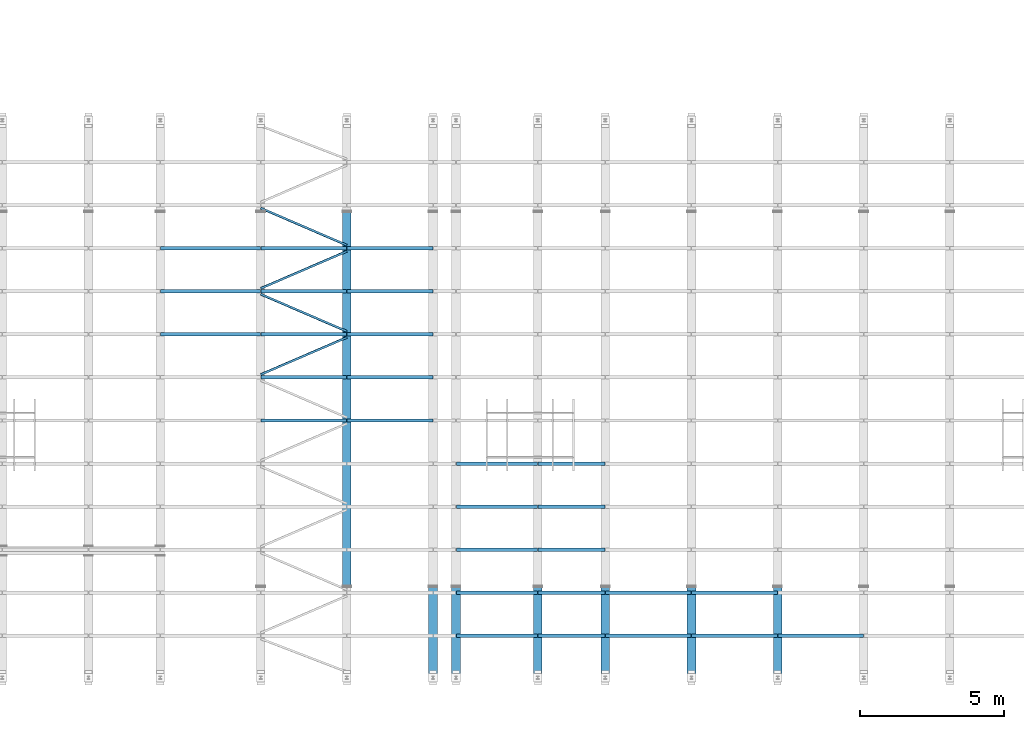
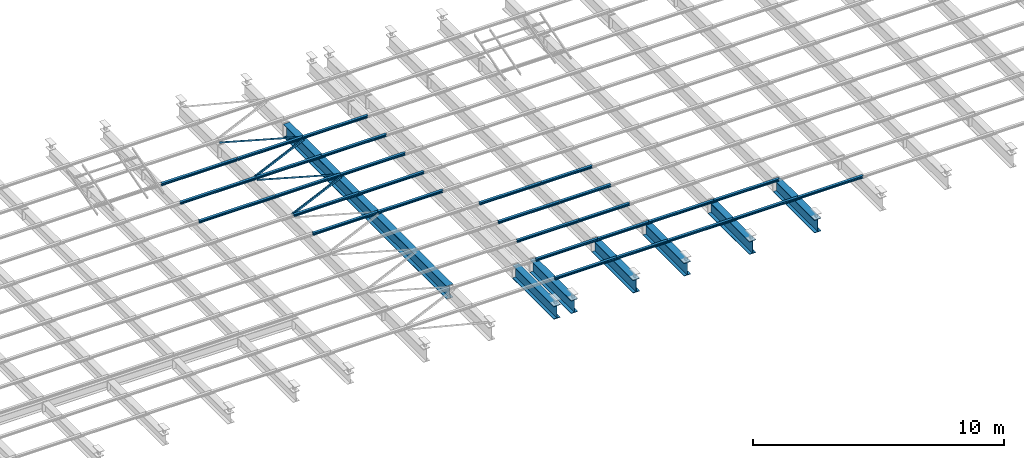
# One storey, part 65 of 139: 39 beams.
"""IFC2X3 building model written with IfcOpenShell, lengths in metres."""

from ifc_helpers import new_model, entity, si_unit, converted_unit, derived_unit, frame, origin, place, context, subcontext, project, spatial, polyline, outline, extrude, material, element, save


model = new_model("IFC2X3")

# Units and contexts
model_context = context("Model", 3, precision=1e-05, world=origin())
body_context = subcontext(model_context, "Body", "Model", "MODEL_VIEW")
ifc_project = project(units=[si_unit("LENGTHUNIT", "METRE"), si_unit("AREAUNIT", "SQUARE_METRE"), si_unit("VOLUMEUNIT", "CUBIC_METRE"), si_unit("MASSUNIT", "GRAM", prefix="KILO"), converted_unit("PLANEANGLEUNIT", "DEGREE", entity("IfcPlaneAngleMeasure", 0.0174532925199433), si_unit("PLANEANGLEUNIT", "RADIAN"), dimensions=[0, 0, 0, 0, 0, 0, 0]), derived_unit("THERMALTRANSMITTANCEUNIT", [(si_unit("POWERUNIT", "WATT"), 1), (si_unit("THERMODYNAMICTEMPERATUREUNIT", "KELVIN"), -1), (si_unit("LENGTHUNIT", "METRE"), -2)]), derived_unit("VOLUMETRICFLOWRATEUNIT", [(si_unit("LENGTHUNIT", "METRE"), 3), (converted_unit("TIMEUNIT", "hour", entity("IfcTimeMeasure", 3600.0), si_unit("TIMEUNIT", "SECOND"), dimensions=[0, 0, 1, 0, 0, 0, 0]), -1), (si_unit("LENGTHUNIT", "METRE"), -1)])], contexts=[model_context])

# Site, building, storey
site_placement = place(None, origin())
site = spatial("IfcSite", under=ifc_project, at=site_placement, Name="TWP_Speiseverteilzentrum SBW VZ II", CompositionType="ELEMENT")
building_placement = place(site_placement, origin())
building = spatial("IfcBuilding", under=site, at=building_placement, Name="Speiseverteilzentrum SBW VZ II", CompositionType="ELEMENT")
storey_placement = place(building_placement, frame((0.0, 0.0, 7.1307)))
storey = spatial("IfcBuildingStorey", under=building, at=storey_placement, Name="Wartung_FFB", CompositionType="ELEMENT", Elevation=7.1307)

# Beams
ifc_material_1 = material(Name="S235")
beam_1_placement = place(storey_placement, frame((88.0500000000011, 26.9020742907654, -0.51), z_axis=(0.0, 0.0, 1.0), x_axis=(-1.0, 0.0, 0.0)))
element("IfcBeam", 1, at=beam_1_placement, inside=storey, material=ifc_material_1, Name="Stahlträger", context=body_context, shape_type="SweptSolid", body=[
    extrude(outline(polyline([(-0.15, 0.32), (-0.15, 0.294), (-0.00675000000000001, 0.294), (-0.00675000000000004, -0.294), (-0.15, -0.294), (-0.15, -0.32), (0.15, -0.32), (0.15, -0.294), (0.00674999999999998, -0.294), (0.00675000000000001, 0.294), (0.15, 0.294), (0.15, 0.32), (-0.15, 0.32)])), frame((0.0, 0.0, 0.0), z_axis=(0.0, 1.0, 0.0), x_axis=(-1.0, 0.0, 0.0)), (0.0, 0.0, 1.0), 13.014),
])
ifc_material_2 = material(Name="S235")
beam_2_placement = place(storey_placement, frame((103.050000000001, 13.8380742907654, -0.51), z_axis=(0.0, 0.0, 1.0), x_axis=(-1.0, 0.0, 0.0)))
element("IfcBeam", 2, at=beam_2_placement, inside=storey, material=ifc_material_2, Name="Stahlträger", context=body_context, shape_type="SweptSolid", body=[
    extrude(outline(polyline([(-0.15, 0.32), (-0.15, 0.294), (-0.00675000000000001, 0.294), (-0.00675000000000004, -0.294), (-0.15, -0.294), (-0.15, -0.32), (0.15, -0.32), (0.15, -0.294), (0.00674999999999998, -0.294), (0.00675000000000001, 0.294), (0.15, 0.294), (0.15, 0.32), (-0.15, 0.32)])), frame((0.0, 0.0, 0.0), z_axis=(0.0, 1.0, 0.0), x_axis=(-1.0, 0.0, 0.0)), (0.0, 0.0, 1.0), 3.29792570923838),
])
ifc_material_3 = material(Name="S235")
beam_3_placement = place(storey_placement, frame((97.0500000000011, 13.8380742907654, -0.51), z_axis=(0.0, 0.0, 1.0), x_axis=(-1.0, 0.0, 0.0)))
element("IfcBeam", 3, at=beam_3_placement, inside=storey, material=ifc_material_3, Name="Stahlträger", context=body_context, shape_type="SweptSolid", body=[
    extrude(outline(polyline([(-0.15, 0.32), (-0.15, 0.294), (-0.00675000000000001, 0.294), (-0.00675000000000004, -0.294), (-0.15, -0.294), (-0.15, -0.32), (0.15, -0.32), (0.15, -0.294), (0.00674999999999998, -0.294), (0.00675000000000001, 0.294), (0.15, 0.294), (0.15, 0.32), (-0.15, 0.32)])), frame((0.0, 0.0, 0.0), z_axis=(0.0, 1.0, 0.0), x_axis=(-1.0, 0.0, 0.0)), (0.0, 0.0, 1.0), 3.29792570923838),
])
ifc_material_4 = material(Name="S235")
beam_4_placement = place(storey_placement, frame((100.050000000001, 13.8380742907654, -0.51), z_axis=(0.0, 0.0, 1.0), x_axis=(-1.0, 0.0, 0.0)))
element("IfcBeam", 4, at=beam_4_placement, inside=storey, material=ifc_material_4, Name="Stahlträger", context=body_context, shape_type="SweptSolid", body=[
    extrude(outline(polyline([(-0.15, 0.32), (-0.15, 0.294), (-0.00675000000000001, 0.294), (-0.00675000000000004, -0.294), (-0.15, -0.294), (-0.15, -0.32), (0.15, -0.32), (0.15, -0.294), (0.00674999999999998, -0.294), (0.00675000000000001, 0.294), (0.15, 0.294), (0.15, 0.32), (-0.15, 0.32)])), frame((0.0, 0.0, 0.0), z_axis=(0.0, 1.0, 0.0), x_axis=(-1.0, 0.0, 0.0)), (0.0, 0.0, 1.0), 3.29792570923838),
])
ifc_material_5 = material(Name="S235")
beam_5_placement = place(storey_placement, frame((94.7000000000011, 13.8380742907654, -0.51), z_axis=(0.0, 0.0, 1.0), x_axis=(-1.0, 0.0, 0.0)))
element("IfcBeam", 5, at=beam_5_placement, inside=storey, material=ifc_material_5, Name="Stahlträger", context=body_context, shape_type="SweptSolid", body=[
    extrude(outline(polyline([(-0.15, 0.32), (-0.15, 0.294), (-0.00675000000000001, 0.294), (-0.00675000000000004, -0.294), (-0.15, -0.294), (-0.15, -0.32), (0.15, -0.32), (0.15, -0.294), (0.00674999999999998, -0.294), (0.00675000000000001, 0.294), (0.15, 0.294), (0.15, 0.32), (-0.15, 0.32)])), frame((0.0, 0.0, 0.0), z_axis=(0.0, 1.0, 0.0), x_axis=(-1.0, 0.0, 0.0)), (0.0, 0.0, 1.0), 3.29792570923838),
])
ifc_material_6 = material(Name="S235")
beam_6_placement = place(storey_placement, frame((91.8500000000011, 13.8380742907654, -0.51), z_axis=(0.0, 0.0, 1.0), x_axis=(-1.0, 0.0, 0.0)))
element("IfcBeam", 6, at=beam_6_placement, inside=storey, material=ifc_material_6, Name="Stahlträger", context=body_context, shape_type="SweptSolid", body=[
    extrude(outline(polyline([(-0.15, 0.32), (-0.15, 0.294), (-0.00675000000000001, 0.294), (-0.00675000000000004, -0.294), (-0.15, -0.294), (-0.15, -0.32), (0.15, -0.32), (0.15, -0.294), (0.00674999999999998, -0.294), (0.00675000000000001, 0.294), (0.15, 0.294), (0.15, 0.32), (-0.15, 0.32)])), frame((0.0, 0.0, 0.0), z_axis=(0.0, 1.0, 0.0), x_axis=(-1.0, 0.0, 0.0)), (0.0, 0.0, 1.0), 3.29792570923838),
])
ifc_material_7 = material(Name="S235")
beam_7_placement = place(storey_placement, frame((91.0500000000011, 13.8380742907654, -0.51), z_axis=(0.0, 0.0, 1.0), x_axis=(-1.0, 0.0, 0.0)))
element("IfcBeam", 7, at=beam_7_placement, inside=storey, material=ifc_material_7, Name="Stahlträger", context=body_context, shape_type="SweptSolid", body=[
    extrude(outline(polyline([(-0.15, 0.32), (-0.15, 0.294), (-0.00675000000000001, 0.294), (-0.00675000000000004, -0.294), (-0.15, -0.294), (-0.15, -0.32), (0.15, -0.32), (0.15, -0.294), (0.00674999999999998, -0.294), (0.00675000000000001, 0.294), (0.15, 0.294), (0.15, 0.32), (-0.15, 0.32)])), frame((0.0, 0.0, 0.0), z_axis=(0.0, 1.0, 0.0), x_axis=(-1.0, 0.0, 0.0)), (0.0, 0.0, 1.0), 3.29792570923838),
])
ifc_material_8 = material(Name="S235")
beam_8_placement = place(storey_placement, frame((85.0600000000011, 25.6450742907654, -0.133), z_axis=(0.0, 0.0, 1.0), x_axis=(0.0, -1.0, 0.0)))
element("IfcBeam", 8, at=beam_8_placement, inside=storey, material=ifc_material_8, Name="Nebenträger", context=body_context, shape_type="SweptSolid", body=[
    extrude(outline(polyline([(-0.06, 0.0570000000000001), (-0.06, 0.0490000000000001), (-0.00249999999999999, 0.0490000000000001), (-0.0025, -0.0489999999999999), (-0.06, -0.0489999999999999), (-0.06, -0.0569999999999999), (0.06, -0.0569999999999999), (0.06, -0.0489999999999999), (0.0025, -0.0489999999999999), (0.00250000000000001, 0.0490000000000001), (0.06, 0.0490000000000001), (0.06, 0.0570000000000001), (-0.06, 0.0570000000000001)])), frame((0.0, 0.0, 0.0), z_axis=(0.0, 1.0, 0.0), x_axis=(-1.0, 0.0, 0.0)), (0.0, 0.0, 1.0), 2.98),
])
ifc_material_9 = material(Name="S235")
beam_9_placement = place(storey_placement, frame((88.0600000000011, 25.6450742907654, -0.133), z_axis=(0.0, 0.0, 1.0), x_axis=(0.0, -1.0, 0.0)))
element("IfcBeam", 9, at=beam_9_placement, inside=storey, material=ifc_material_9, Name="Nebenträger", context=body_context, shape_type="SweptSolid", body=[
    extrude(outline(polyline([(-0.06, 0.0570000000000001), (-0.06, 0.0490000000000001), (-0.00249999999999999, 0.0490000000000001), (-0.0025, -0.0489999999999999), (-0.06, -0.0489999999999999), (-0.06, -0.0569999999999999), (0.06, -0.0569999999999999), (0.06, -0.0489999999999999), (0.0025, -0.0489999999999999), (0.00250000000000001, 0.0490000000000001), (0.06, 0.0490000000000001), (0.06, 0.0570000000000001), (-0.06, 0.0570000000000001)])), frame((0.0, 0.0, 0.0), z_axis=(0.0, 1.0, 0.0), x_axis=(-1.0, 0.0, 0.0)), (0.0, 0.0, 1.0), 2.98),
])
ifc_material_10 = material(Name="S235")
beam_10_placement = place(storey_placement, frame((85.0600000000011, 24.1450742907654, -0.133), z_axis=(0.0, 0.0, 1.0), x_axis=(0.0, -1.0, 0.0)))
element("IfcBeam", 10, at=beam_10_placement, inside=storey, material=ifc_material_10, Name="Nebenträger", context=body_context, shape_type="SweptSolid", body=[
    extrude(outline(polyline([(-0.06, 0.0570000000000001), (-0.06, 0.0490000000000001), (-0.00249999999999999, 0.0490000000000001), (-0.0025, -0.0489999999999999), (-0.06, -0.0489999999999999), (-0.06, -0.0569999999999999), (0.06, -0.0569999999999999), (0.06, -0.0489999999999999), (0.0025, -0.0489999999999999), (0.00250000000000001, 0.0490000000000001), (0.06, 0.0490000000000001), (0.06, 0.0570000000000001), (-0.06, 0.0570000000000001)])), frame((0.0, 0.0, 0.0), z_axis=(0.0, 1.0, 0.0), x_axis=(-1.0, 0.0, 0.0)), (0.0, 0.0, 1.0), 2.98),
])
ifc_material_11 = material(Name="S235")
beam_11_placement = place(storey_placement, frame((88.0600000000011, 24.1450742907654, -0.133), z_axis=(0.0, 0.0, 1.0), x_axis=(0.0, -1.0, 0.0)))
element("IfcBeam", 11, at=beam_11_placement, inside=storey, material=ifc_material_11, Name="Nebenträger", context=body_context, shape_type="SweptSolid", body=[
    extrude(outline(polyline([(-0.06, 0.0570000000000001), (-0.06, 0.0490000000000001), (-0.00249999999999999, 0.0490000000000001), (-0.0025, -0.0489999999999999), (-0.06, -0.0489999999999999), (-0.06, -0.0569999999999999), (0.06, -0.0569999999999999), (0.06, -0.0489999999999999), (0.0025, -0.0489999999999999), (0.00250000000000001, 0.0490000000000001), (0.06, 0.0490000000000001), (0.06, 0.0570000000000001), (-0.06, 0.0570000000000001)])), frame((0.0, 0.0, 0.0), z_axis=(0.0, 1.0, 0.0), x_axis=(-1.0, 0.0, 0.0)), (0.0, 0.0, 1.0), 2.98),
])
ifc_material_12 = material(Name="S235")
beam_12_placement = place(storey_placement, frame((85.0600000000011, 22.6450742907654, -0.133), z_axis=(0.0, 0.0, 1.0), x_axis=(0.0, -1.0, 0.0)))
element("IfcBeam", 12, at=beam_12_placement, inside=storey, material=ifc_material_12, Name="Nebenträger", context=body_context, shape_type="SweptSolid", body=[
    extrude(outline(polyline([(-0.06, 0.0570000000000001), (-0.06, 0.0490000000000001), (-0.00249999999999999, 0.0490000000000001), (-0.0025, -0.0489999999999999), (-0.06, -0.0489999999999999), (-0.06, -0.0569999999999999), (0.06, -0.0569999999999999), (0.06, -0.0489999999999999), (0.0025, -0.0489999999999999), (0.00250000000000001, 0.0490000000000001), (0.06, 0.0490000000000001), (0.06, 0.0570000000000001), (-0.06, 0.0570000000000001)])), frame((0.0, 0.0, 0.0), z_axis=(0.0, 1.0, 0.0), x_axis=(-1.0, 0.0, 0.0)), (0.0, 0.0, 1.0), 2.98),
])
ifc_material_13 = material(Name="S235")
beam_13_placement = place(storey_placement, frame((88.0600000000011, 22.6450742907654, -0.133), z_axis=(0.0, 0.0, 1.0), x_axis=(0.0, -1.0, 0.0)))
element("IfcBeam", 13, at=beam_13_placement, inside=storey, material=ifc_material_13, Name="Nebenträger", context=body_context, shape_type="SweptSolid", body=[
    extrude(outline(polyline([(-0.06, 0.0570000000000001), (-0.06, 0.0490000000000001), (-0.00249999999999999, 0.0490000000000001), (-0.0025, -0.0489999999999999), (-0.06, -0.0489999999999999), (-0.06, -0.0569999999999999), (0.06, -0.0569999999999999), (0.06, -0.0489999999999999), (0.0025, -0.0489999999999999), (0.00250000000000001, 0.0490000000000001), (0.06, 0.0490000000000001), (0.06, 0.0570000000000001), (-0.06, 0.0570000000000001)])), frame((0.0, 0.0, 0.0), z_axis=(0.0, 1.0, 0.0), x_axis=(-1.0, 0.0, 0.0)), (0.0, 0.0, 1.0), 2.98),
])
ifc_material_14 = material(Name="S235")
beam_14_placement = place(storey_placement, frame((85.0600000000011, 21.1450742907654, -0.133), z_axis=(0.0, 0.0, 1.0), x_axis=(0.0, -1.0, 0.0)))
element("IfcBeam", 14, at=beam_14_placement, inside=storey, material=ifc_material_14, Name="Nebenträger", context=body_context, shape_type="SweptSolid", body=[
    extrude(outline(polyline([(-0.06, 0.0570000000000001), (-0.06, 0.0490000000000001), (-0.00249999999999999, 0.0490000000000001), (-0.0025, -0.0489999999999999), (-0.06, -0.0489999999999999), (-0.06, -0.0569999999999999), (0.06, -0.0569999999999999), (0.06, -0.0489999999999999), (0.0025, -0.0489999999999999), (0.00250000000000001, 0.0490000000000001), (0.06, 0.0490000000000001), (0.06, 0.0570000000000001), (-0.06, 0.0570000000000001)])), frame((0.0, 0.0, 0.0), z_axis=(0.0, 1.0, 0.0), x_axis=(-1.0, 0.0, 0.0)), (0.0, 0.0, 1.0), 2.98),
])
ifc_material_15 = material(Name="S235")
beam_15_placement = place(storey_placement, frame((88.0600000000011, 21.1450742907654, -0.133), z_axis=(0.0, 0.0, 1.0), x_axis=(0.0, -1.0, 0.0)))
element("IfcBeam", 15, at=beam_15_placement, inside=storey, material=ifc_material_15, Name="Nebenträger", context=body_context, shape_type="SweptSolid", body=[
    extrude(outline(polyline([(-0.06, 0.0570000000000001), (-0.06, 0.0490000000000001), (-0.00249999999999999, 0.0490000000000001), (-0.0025, -0.0489999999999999), (-0.06, -0.0489999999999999), (-0.06, -0.0569999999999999), (0.06, -0.0569999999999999), (0.06, -0.0489999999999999), (0.0025, -0.0489999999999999), (0.00250000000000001, 0.0490000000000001), (0.06, 0.0490000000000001), (0.06, 0.0570000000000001), (-0.06, 0.0570000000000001)])), frame((0.0, 0.0, 0.0), z_axis=(0.0, 1.0, 0.0), x_axis=(-1.0, 0.0, 0.0)), (0.0, 0.0, 1.0), 2.98),
])
ifc_material_16 = material(Name="S235")
beam_16_placement = place(storey_placement, frame((85.0600000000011, 19.6450742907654, -0.133), z_axis=(0.0, 0.0, 1.0), x_axis=(0.0, -1.0, 0.0)))
element("IfcBeam", 16, at=beam_16_placement, inside=storey, material=ifc_material_16, Name="Nebenträger", context=body_context, shape_type="SweptSolid", body=[
    extrude(outline(polyline([(-0.06, 0.0570000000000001), (-0.06, 0.0490000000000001), (-0.00249999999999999, 0.0490000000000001), (-0.0025, -0.0489999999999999), (-0.06, -0.0489999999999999), (-0.06, -0.0569999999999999), (0.06, -0.0569999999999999), (0.06, -0.0489999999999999), (0.0025, -0.0489999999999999), (0.00250000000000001, 0.0490000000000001), (0.06, 0.0490000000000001), (0.06, 0.0570000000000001), (-0.06, 0.0570000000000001)])), frame((0.0, 0.0, 0.0), z_axis=(0.0, 1.0, 0.0), x_axis=(-1.0, 0.0, 0.0)), (0.0, 0.0, 1.0), 2.98),
])
ifc_material_17 = material(Name="S235")
beam_17_placement = place(storey_placement, frame((88.0600000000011, 19.6450742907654, -0.133), z_axis=(0.0, 0.0, 1.0), x_axis=(0.0, -1.0, 0.0)))
element("IfcBeam", 17, at=beam_17_placement, inside=storey, material=ifc_material_17, Name="Nebenträger", context=body_context, shape_type="SweptSolid", body=[
    extrude(outline(polyline([(-0.06, 0.0570000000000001), (-0.06, 0.0490000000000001), (-0.00249999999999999, 0.0490000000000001), (-0.0025, -0.0489999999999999), (-0.06, -0.0489999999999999), (-0.06, -0.0569999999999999), (0.06, -0.0569999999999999), (0.06, -0.0489999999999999), (0.0025, -0.0489999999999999), (0.00250000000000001, 0.0490000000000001), (0.06, 0.0490000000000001), (0.06, 0.0570000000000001), (-0.06, 0.0570000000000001)])), frame((0.0, 0.0, 0.0), z_axis=(0.0, 1.0, 0.0), x_axis=(-1.0, 0.0, 0.0)), (0.0, 0.0, 1.0), 2.98),
])
ifc_material_18 = material(Name="S235")
beam_18_placement = place(storey_placement, frame((97.0600000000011, 13.6450742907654, -0.133), z_axis=(0.0, 0.0, 1.0), x_axis=(0.0, -1.0, 0.0)))
element("IfcBeam", 18, at=beam_18_placement, inside=storey, material=ifc_material_18, Name="Nebenträger", context=body_context, shape_type="SweptSolid", body=[
    extrude(outline(polyline([(-0.06, 0.0570000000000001), (-0.06, 0.0490000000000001), (-0.00249999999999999, 0.0490000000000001), (-0.0025, -0.0489999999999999), (-0.06, -0.0489999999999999), (-0.06, -0.0569999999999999), (0.06, -0.0569999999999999), (0.06, -0.0489999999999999), (0.0025, -0.0489999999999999), (0.00250000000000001, 0.0490000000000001), (0.06, 0.0490000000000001), (0.06, 0.0570000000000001), (-0.06, 0.0570000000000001)])), frame((0.0, 0.0, 0.0), z_axis=(0.0, 1.0, 0.0), x_axis=(-1.0, 0.0, 0.0)), (0.0, 0.0, 1.0), 2.98),
])
ifc_material_19 = material(Name="S235")
beam_19_placement = place(storey_placement, frame((100.060000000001, 13.6450742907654, -0.133), z_axis=(0.0, 0.0, 1.0), x_axis=(0.0, -1.0, 0.0)))
element("IfcBeam", 19, at=beam_19_placement, inside=storey, material=ifc_material_19, Name="Nebenträger", context=body_context, shape_type="SweptSolid", body=[
    extrude(outline(polyline([(-0.06, 0.0570000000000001), (-0.06, 0.0490000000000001), (-0.00249999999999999, 0.0490000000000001), (-0.0025, -0.0489999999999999), (-0.06, -0.0489999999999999), (-0.06, -0.0569999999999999), (0.06, -0.0569999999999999), (0.06, -0.0489999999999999), (0.0025, -0.0489999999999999), (0.00250000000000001, 0.0490000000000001), (0.06, 0.0490000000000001), (0.06, 0.0570000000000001), (-0.06, 0.0570000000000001)])), frame((0.0, 0.0, 0.0), z_axis=(0.0, 1.0, 0.0), x_axis=(-1.0, 0.0, 0.0)), (0.0, 0.0, 1.0), 2.98),
])
ifc_material_20 = material(Name="S235")
beam_20_placement = place(storey_placement, frame((97.0600000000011, 12.1450742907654, -0.133), z_axis=(0.0, 0.0, 1.0), x_axis=(0.0, -1.0, 0.0)))
element("IfcBeam", 20, at=beam_20_placement, inside=storey, material=ifc_material_20, Name="Nebenträger", context=body_context, shape_type="SweptSolid", body=[
    extrude(outline(polyline([(-0.06, 0.0570000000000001), (-0.06, 0.0490000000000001), (-0.00249999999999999, 0.0490000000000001), (-0.0025, -0.0489999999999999), (-0.06, -0.0489999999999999), (-0.06, -0.0569999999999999), (0.06, -0.0569999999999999), (0.06, -0.0489999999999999), (0.0025, -0.0489999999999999), (0.00250000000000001, 0.0490000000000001), (0.06, 0.0490000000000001), (0.06, 0.0570000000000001), (-0.06, 0.0570000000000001)])), frame((0.0, 0.0, 0.0), z_axis=(0.0, 1.0, 0.0), x_axis=(-1.0, 0.0, 0.0)), (0.0, 0.0, 1.0), 2.98),
])
ifc_material_21 = material(Name="S235")
beam_21_placement = place(storey_placement, frame((100.060000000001, 12.1450742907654, -0.133), z_axis=(0.0, 0.0, 1.0), x_axis=(0.0, -1.0, 0.0)))
element("IfcBeam", 21, at=beam_21_placement, inside=storey, material=ifc_material_21, Name="Nebenträger", context=body_context, shape_type="SweptSolid", body=[
    extrude(outline(polyline([(-0.06, 0.0570000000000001), (-0.06, 0.0490000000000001), (-0.00249999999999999, 0.0490000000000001), (-0.0025, -0.0489999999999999), (-0.06, -0.0489999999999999), (-0.06, -0.0569999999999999), (0.06, -0.0569999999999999), (0.06, -0.0489999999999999), (0.0025, -0.0489999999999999), (0.00250000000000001, 0.0490000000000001), (0.06, 0.0490000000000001), (0.06, 0.0570000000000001), (-0.06, 0.0570000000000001)])), frame((0.0, 0.0, 0.0), z_axis=(0.0, 1.0, 0.0), x_axis=(-1.0, 0.0, 0.0)), (0.0, 0.0, 1.0), 2.98),
])
ifc_material_22 = material(Name="S235")
beam_22_placement = place(storey_placement, frame((103.060000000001, 12.1450742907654, -0.133), z_axis=(0.0, 0.0, 1.0), x_axis=(0.0, -1.0, 0.0)))
element("IfcBeam", 22, at=beam_22_placement, inside=storey, material=ifc_material_22, Name="Nebenträger", context=body_context, shape_type="SweptSolid", body=[
    extrude(outline(polyline([(-0.06, 0.0570000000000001), (-0.06, 0.0490000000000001), (-0.00249999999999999, 0.0490000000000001), (-0.0025, -0.0489999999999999), (-0.06, -0.0489999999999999), (-0.06, -0.0569999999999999), (0.06, -0.0569999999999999), (0.06, -0.0489999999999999), (0.0025, -0.0489999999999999), (0.00250000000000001, 0.0490000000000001), (0.06, 0.0490000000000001), (0.06, 0.0570000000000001), (-0.06, 0.0570000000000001)])), frame((0.0, 0.0, 0.0), z_axis=(0.0, 1.0, 0.0), x_axis=(-1.0, 0.0, 0.0)), (0.0, 0.0, 1.0), 2.98),
])
ifc_material_23 = material(Name="S235")
beam_23_placement = place(storey_placement, frame((81.5600000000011, 25.6450742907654, -0.133), z_axis=(0.0, 0.0, 1.0), x_axis=(0.0, -1.0, 0.0)))
element("IfcBeam", 23, at=beam_23_placement, inside=storey, material=ifc_material_23, Name="Nebenträger", context=body_context, shape_type="SweptSolid", body=[
    extrude(outline(polyline([(-0.06, 0.0570000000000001), (-0.06, 0.0490000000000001), (-0.00249999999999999, 0.0490000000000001), (-0.0025, -0.0489999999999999), (-0.06, -0.0489999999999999), (-0.06, -0.0569999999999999), (0.06, -0.0569999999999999), (0.06, -0.0489999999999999), (0.0025, -0.0489999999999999), (0.00250000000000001, 0.0490000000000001), (0.06, 0.0490000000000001), (0.06, 0.0570000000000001), (-0.06, 0.0570000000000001)])), frame((0.0, 0.0, 0.0), z_axis=(0.0, 1.0, 0.0), x_axis=(-1.0, 0.0, 0.0)), (0.0, 0.0, 1.0), 3.48),
])
ifc_material_24 = material(Name="S235")
beam_24_placement = place(storey_placement, frame((81.5600000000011, 24.1450742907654, -0.133), z_axis=(0.0, 0.0, 1.0), x_axis=(0.0, -1.0, 0.0)))
element("IfcBeam", 24, at=beam_24_placement, inside=storey, material=ifc_material_24, Name="Nebenträger", context=body_context, shape_type="SweptSolid", body=[
    extrude(outline(polyline([(-0.06, 0.0570000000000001), (-0.06, 0.0490000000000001), (-0.00249999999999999, 0.0490000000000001), (-0.0025, -0.0489999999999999), (-0.06, -0.0489999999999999), (-0.06, -0.0569999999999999), (0.06, -0.0569999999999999), (0.06, -0.0489999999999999), (0.0025, -0.0489999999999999), (0.00250000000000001, 0.0490000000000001), (0.06, 0.0490000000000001), (0.06, 0.0570000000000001), (-0.06, 0.0570000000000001)])), frame((0.0, 0.0, 0.0), z_axis=(0.0, 1.0, 0.0), x_axis=(-1.0, 0.0, 0.0)), (0.0, 0.0, 1.0), 3.48),
])
ifc_material_25 = material(Name="S235")
beam_25_placement = place(storey_placement, frame((81.5600000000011, 22.6450742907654, -0.133), z_axis=(0.0, 0.0, 1.0), x_axis=(0.0, -1.0, 0.0)))
element("IfcBeam", 25, at=beam_25_placement, inside=storey, material=ifc_material_25, Name="Nebenträger", context=body_context, shape_type="SweptSolid", body=[
    extrude(outline(polyline([(-0.06, 0.0570000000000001), (-0.06, 0.0490000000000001), (-0.00249999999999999, 0.0490000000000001), (-0.0025, -0.0489999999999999), (-0.06, -0.0489999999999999), (-0.06, -0.0569999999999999), (0.06, -0.0569999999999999), (0.06, -0.0489999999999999), (0.0025, -0.0489999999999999), (0.00250000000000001, 0.0490000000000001), (0.06, 0.0490000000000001), (0.06, 0.0570000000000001), (-0.06, 0.0570000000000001)])), frame((0.0, 0.0, 0.0), z_axis=(0.0, 1.0, 0.0), x_axis=(-1.0, 0.0, 0.0)), (0.0, 0.0, 1.0), 3.48),
])
ifc_material_26 = material(Name="S235")
beam_26_placement = place(storey_placement, frame((94.7100000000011, 18.1450742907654, -0.133), z_axis=(0.0, 0.0, 1.0), x_axis=(0.0, -1.0, 0.0)))
element("IfcBeam", 26, at=beam_26_placement, inside=storey, material=ifc_material_26, Name="Nebenträger", context=body_context, shape_type="SweptSolid", body=[
    extrude(outline(polyline([(-0.06, 0.0570000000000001), (-0.06, 0.0490000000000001), (-0.00249999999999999, 0.0490000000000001), (-0.0025, -0.0489999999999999), (-0.06, -0.0489999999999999), (-0.06, -0.0569999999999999), (0.06, -0.0569999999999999), (0.06, -0.0489999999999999), (0.0025, -0.0489999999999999), (0.00250000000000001, 0.0490000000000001), (0.06, 0.0490000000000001), (0.06, 0.0570000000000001), (-0.06, 0.0570000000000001)])), frame((0.0, 0.0, 0.0), z_axis=(0.0, 1.0, 0.0), x_axis=(-1.0, 0.0, 0.0)), (0.0, 0.0, 1.0), 2.33),
])
ifc_material_27 = material(Name="S235")
beam_27_placement = place(storey_placement, frame((94.7100000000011, 16.6450742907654, -0.133), z_axis=(0.0, 0.0, 1.0), x_axis=(0.0, -1.0, 0.0)))
element("IfcBeam", 27, at=beam_27_placement, inside=storey, material=ifc_material_27, Name="Nebenträger", context=body_context, shape_type="SweptSolid", body=[
    extrude(outline(polyline([(-0.06, 0.0570000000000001), (-0.06, 0.0490000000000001), (-0.00249999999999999, 0.0490000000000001), (-0.0025, -0.0489999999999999), (-0.06, -0.0489999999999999), (-0.06, -0.0569999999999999), (0.06, -0.0569999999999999), (0.06, -0.0489999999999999), (0.0025, -0.0489999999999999), (0.00250000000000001, 0.0490000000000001), (0.06, 0.0490000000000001), (0.06, 0.0570000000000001), (-0.06, 0.0570000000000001)])), frame((0.0, 0.0, 0.0), z_axis=(0.0, 1.0, 0.0), x_axis=(-1.0, 0.0, 0.0)), (0.0, 0.0, 1.0), 2.33),
])
ifc_material_28 = material(Name="S235")
beam_28_placement = place(storey_placement, frame((94.7100000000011, 15.1450742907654, -0.133), z_axis=(0.0, 0.0, 1.0), x_axis=(0.0, -1.0, 0.0)))
element("IfcBeam", 28, at=beam_28_placement, inside=storey, material=ifc_material_28, Name="Nebenträger", context=body_context, shape_type="SweptSolid", body=[
    extrude(outline(polyline([(-0.06, 0.0570000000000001), (-0.06, 0.0490000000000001), (-0.00249999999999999, 0.0490000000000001), (-0.0025, -0.0489999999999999), (-0.06, -0.0489999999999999), (-0.06, -0.0569999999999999), (0.06, -0.0569999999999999), (0.06, -0.0489999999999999), (0.0025, -0.0489999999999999), (0.00250000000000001, 0.0490000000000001), (0.06, 0.0490000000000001), (0.06, 0.0570000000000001), (-0.06, 0.0570000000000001)])), frame((0.0, 0.0, 0.0), z_axis=(0.0, 1.0, 0.0), x_axis=(-1.0, 0.0, 0.0)), (0.0, 0.0, 1.0), 2.33),
])
ifc_material_29 = material(Name="S235")
beam_29_placement = place(storey_placement, frame((94.7100000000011, 13.6450742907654, -0.133), z_axis=(0.0, 0.0, 1.0), x_axis=(0.0, -1.0, 0.0)))
element("IfcBeam", 29, at=beam_29_placement, inside=storey, material=ifc_material_29, Name="Nebenträger", context=body_context, shape_type="SweptSolid", body=[
    extrude(outline(polyline([(-0.06, 0.0570000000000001), (-0.06, 0.0490000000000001), (-0.00249999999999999, 0.0490000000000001), (-0.0025, -0.0489999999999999), (-0.06, -0.0489999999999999), (-0.06, -0.0569999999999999), (0.06, -0.0569999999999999), (0.06, -0.0489999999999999), (0.0025, -0.0489999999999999), (0.00250000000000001, 0.0490000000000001), (0.06, 0.0490000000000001), (0.06, 0.0570000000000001), (-0.06, 0.0570000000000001)])), frame((0.0, 0.0, 0.0), z_axis=(0.0, 1.0, 0.0), x_axis=(-1.0, 0.0, 0.0)), (0.0, 0.0, 1.0), 2.33),
])
ifc_material_30 = material(Name="S235")
beam_30_placement = place(storey_placement, frame((94.7100000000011, 12.1450742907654, -0.133), z_axis=(0.0, 0.0, 1.0), x_axis=(0.0, -1.0, 0.0)))
element("IfcBeam", 30, at=beam_30_placement, inside=storey, material=ifc_material_30, Name="Nebenträger", context=body_context, shape_type="SweptSolid", body=[
    extrude(outline(polyline([(-0.06, 0.0570000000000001), (-0.06, 0.0490000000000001), (-0.00249999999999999, 0.0490000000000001), (-0.0025, -0.0489999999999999), (-0.06, -0.0489999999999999), (-0.06, -0.0569999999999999), (0.06, -0.0569999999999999), (0.06, -0.0489999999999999), (0.0025, -0.0489999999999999), (0.00250000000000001, 0.0490000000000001), (0.06, 0.0490000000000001), (0.06, 0.0570000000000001), (-0.06, 0.0570000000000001)])), frame((0.0, 0.0, 0.0), z_axis=(0.0, 1.0, 0.0), x_axis=(-1.0, 0.0, 0.0)), (0.0, 0.0, 1.0), 2.33),
])
ifc_material_31 = material(Name="S235")
beam_31_placement = place(storey_placement, frame((91.8600000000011, 18.1450742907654, -0.133), z_axis=(0.0, 0.0, 1.0), x_axis=(0.0, -1.0, 0.0)))
element("IfcBeam", 31, at=beam_31_placement, inside=storey, material=ifc_material_31, Name="Nebenträger", context=body_context, shape_type="SweptSolid", body=[
    extrude(outline(polyline([(-0.06, 0.0570000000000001), (-0.06, 0.0490000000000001), (-0.00249999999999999, 0.0490000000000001), (-0.0025, -0.0489999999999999), (-0.06, -0.0489999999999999), (-0.06, -0.0569999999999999), (0.06, -0.0569999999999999), (0.06, -0.0489999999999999), (0.0025, -0.0489999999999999), (0.00250000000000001, 0.0490000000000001), (0.06, 0.0490000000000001), (0.06, 0.0570000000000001), (-0.06, 0.0570000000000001)])), frame((0.0, 0.0, 0.0), z_axis=(0.0, 1.0, 0.0), x_axis=(-1.0, 0.0, 0.0)), (0.0, 0.0, 1.0), 2.83325),
])
ifc_material_32 = material(Name="S235")
beam_32_placement = place(storey_placement, frame((91.8600000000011, 16.6450742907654, -0.133), z_axis=(0.0, 0.0, 1.0), x_axis=(0.0, -1.0, 0.0)))
element("IfcBeam", 32, at=beam_32_placement, inside=storey, material=ifc_material_32, Name="Nebenträger", context=body_context, shape_type="SweptSolid", body=[
    extrude(outline(polyline([(-0.06, 0.0570000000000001), (-0.06, 0.0490000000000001), (-0.00249999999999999, 0.0490000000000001), (-0.0025, -0.0489999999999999), (-0.06, -0.0489999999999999), (-0.06, -0.0569999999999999), (0.06, -0.0569999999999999), (0.06, -0.0489999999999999), (0.0025, -0.0489999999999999), (0.00250000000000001, 0.0490000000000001), (0.06, 0.0490000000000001), (0.06, 0.0570000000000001), (-0.06, 0.0570000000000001)])), frame((0.0, 0.0, 0.0), z_axis=(0.0, 1.0, 0.0), x_axis=(-1.0, 0.0, 0.0)), (0.0, 0.0, 1.0), 2.83325),
])
ifc_material_33 = material(Name="S235")
beam_33_placement = place(storey_placement, frame((91.8600000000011, 15.1450742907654, -0.133), z_axis=(0.0, 0.0, 1.0), x_axis=(0.0, -1.0, 0.0)))
element("IfcBeam", 33, at=beam_33_placement, inside=storey, material=ifc_material_33, Name="Nebenträger", context=body_context, shape_type="SweptSolid", body=[
    extrude(outline(polyline([(-0.06, 0.0570000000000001), (-0.06, 0.0490000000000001), (-0.00249999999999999, 0.0490000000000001), (-0.0025, -0.0489999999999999), (-0.06, -0.0489999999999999), (-0.06, -0.0569999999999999), (0.06, -0.0569999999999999), (0.06, -0.0489999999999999), (0.0025, -0.0489999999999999), (0.00250000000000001, 0.0490000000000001), (0.06, 0.0490000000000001), (0.06, 0.0570000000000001), (-0.06, 0.0570000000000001)])), frame((0.0, 0.0, 0.0), z_axis=(0.0, 1.0, 0.0), x_axis=(-1.0, 0.0, 0.0)), (0.0, 0.0, 1.0), 2.83325),
])
ifc_material_34 = material(Name="S235")
beam_34_placement = place(storey_placement, frame((91.8600000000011, 13.6450742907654, -0.133), z_axis=(0.0, 0.0, 1.0), x_axis=(0.0, -1.0, 0.0)))
element("IfcBeam", 34, at=beam_34_placement, inside=storey, material=ifc_material_34, Name="Nebenträger", context=body_context, shape_type="SweptSolid", body=[
    extrude(outline(polyline([(-0.06, 0.0570000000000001), (-0.06, 0.0490000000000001), (-0.00249999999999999, 0.0490000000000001), (-0.0025, -0.0489999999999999), (-0.06, -0.0489999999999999), (-0.06, -0.0569999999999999), (0.06, -0.0569999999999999), (0.06, -0.0489999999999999), (0.0025, -0.0489999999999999), (0.00250000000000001, 0.0490000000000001), (0.06, 0.0490000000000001), (0.06, 0.0570000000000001), (-0.06, 0.0570000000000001)])), frame((0.0, 0.0, 0.0), z_axis=(0.0, 1.0, 0.0), x_axis=(-1.0, 0.0, 0.0)), (0.0, 0.0, 1.0), 2.83325),
])
ifc_material_35 = material(Name="S235")
beam_35_placement = place(storey_placement, frame((91.8600000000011, 12.1450742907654, -0.133), z_axis=(0.0, 0.0, 1.0), x_axis=(0.0, -1.0, 0.0)))
element("IfcBeam", 35, at=beam_35_placement, inside=storey, material=ifc_material_35, Name="Nebenträger", context=body_context, shape_type="SweptSolid", body=[
    extrude(outline(polyline([(-0.06, 0.0570000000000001), (-0.06, 0.0490000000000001), (-0.00249999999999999, 0.0490000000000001), (-0.0025, -0.0489999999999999), (-0.06, -0.0489999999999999), (-0.06, -0.0569999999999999), (0.06, -0.0569999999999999), (0.06, -0.0489999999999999), (0.0025, -0.0489999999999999), (0.00250000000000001, 0.0490000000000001), (0.06, 0.0490000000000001), (0.06, 0.0570000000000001), (-0.06, 0.0570000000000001)])), frame((0.0, 0.0, 0.0), z_axis=(0.0, 1.0, 0.0), x_axis=(-1.0, 0.0, 0.0)), (0.0, 0.0, 1.0), 2.83325),
])
ifc_material_36 = material(Name="S235")
beam_36_placement = place(storey_placement, frame((85.0406913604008, 24.2634673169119, -0.167052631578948), z_axis=(0.0, 0.0, 1.0), x_axis=(0.395932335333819, -0.91827968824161, 0.0)))
element("IfcBeam", 36, at=beam_36_placement, inside=storey, material=ifc_material_36, Name="Kreuzverband", context=body_context, shape_type="SweptSolid", body=[
    extrude(outline(polyline([(0.0229473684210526, -0.0229473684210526), (0.0229473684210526, 0.0570526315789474), (0.0149473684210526, 0.0570526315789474), (0.0149473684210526, -0.0149473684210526), (-0.0570526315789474, -0.0149473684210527), (-0.0570526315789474, -0.0229473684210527), (0.0229473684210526, -0.0229473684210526)])), frame((0.0, 0.0, 0.0), z_axis=(0.0, 0.999999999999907, 0.0), x_axis=(-1.0, 0.0, 0.0)), (0.0, 0.0, 1.0), 3.27000000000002),
])
ifc_material_37 = material(Name="S235")
beam_37_placement = place(storey_placement, frame((85.0406913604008, 27.0266812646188, -0.167052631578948), z_axis=(0.0, 0.0, 1.0), x_axis=(-0.395932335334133, -0.918279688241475, 0.0)))
element("IfcBeam", 37, at=beam_37_placement, inside=storey, material=ifc_material_37, Name="Kreuzverband", context=body_context, shape_type="SweptSolid", body=[
    extrude(outline(polyline([(0.0570526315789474, -0.0229473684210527), (0.0570526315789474, -0.0149473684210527), (-0.0149473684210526, -0.0149473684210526), (-0.0149473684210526, 0.0570526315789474), (-0.0229473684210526, 0.0570526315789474), (-0.0229473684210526, -0.0229473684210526), (0.0570526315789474, -0.0229473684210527)])), frame((0.0, 0.0, 0.0), z_axis=(0.0, 1.00000000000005, 0.0), x_axis=(-1.0, 0.0, 0.0)), (0.0, 0.0, 1.0), 3.27000000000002),
])
ifc_material_38 = material(Name="S235")
beam_38_placement = place(storey_placement, frame((85.0406913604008, 21.2634673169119, -0.167052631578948), z_axis=(0.0, 0.0, 1.0), x_axis=(0.395932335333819, -0.91827968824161, 0.0)))
element("IfcBeam", 38, at=beam_38_placement, inside=storey, material=ifc_material_38, Name="Kreuzverband", context=body_context, shape_type="SweptSolid", body=[
    extrude(outline(polyline([(0.0229473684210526, -0.0229473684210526), (0.0229473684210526, 0.0570526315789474), (0.0149473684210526, 0.0570526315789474), (0.0149473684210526, -0.0149473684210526), (-0.0570526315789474, -0.0149473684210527), (-0.0570526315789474, -0.0229473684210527), (0.0229473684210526, -0.0229473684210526)])), frame((0.0, 0.0, 0.0), z_axis=(0.0, 0.999999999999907, 0.0), x_axis=(-1.0, 0.0, 0.0)), (0.0, 0.0, 1.0), 3.27000000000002),
])
ifc_material_39 = material(Name="S235")
beam_39_placement = place(storey_placement, frame((85.0406913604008, 24.0266812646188, -0.167052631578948), z_axis=(0.0, 0.0, 1.0), x_axis=(-0.395932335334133, -0.918279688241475, 0.0)))
element("IfcBeam", 39, at=beam_39_placement, inside=storey, material=ifc_material_39, Name="Kreuzverband", context=body_context, shape_type="SweptSolid", body=[
    extrude(outline(polyline([(0.0570526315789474, -0.0229473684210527), (0.0570526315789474, -0.0149473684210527), (-0.0149473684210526, -0.0149473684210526), (-0.0149473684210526, 0.0570526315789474), (-0.0229473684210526, 0.0570526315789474), (-0.0229473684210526, -0.0229473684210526), (0.0570526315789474, -0.0229473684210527)])), frame((0.0, 0.0, 0.0), z_axis=(0.0, 1.00000000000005, 0.0), x_axis=(-1.0, 0.0, 0.0)), (0.0, 0.0, 1.0), 3.27000000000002),
])

save(model, "model.ifc")
